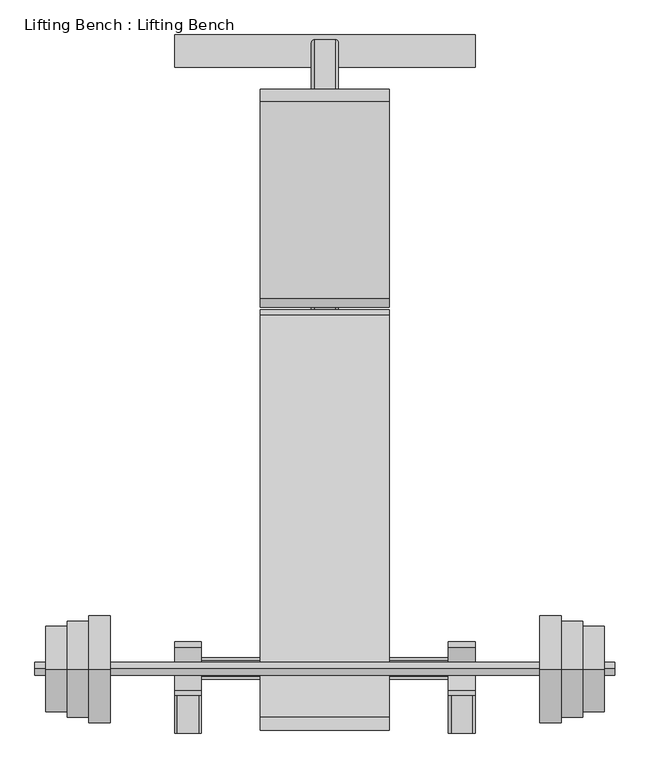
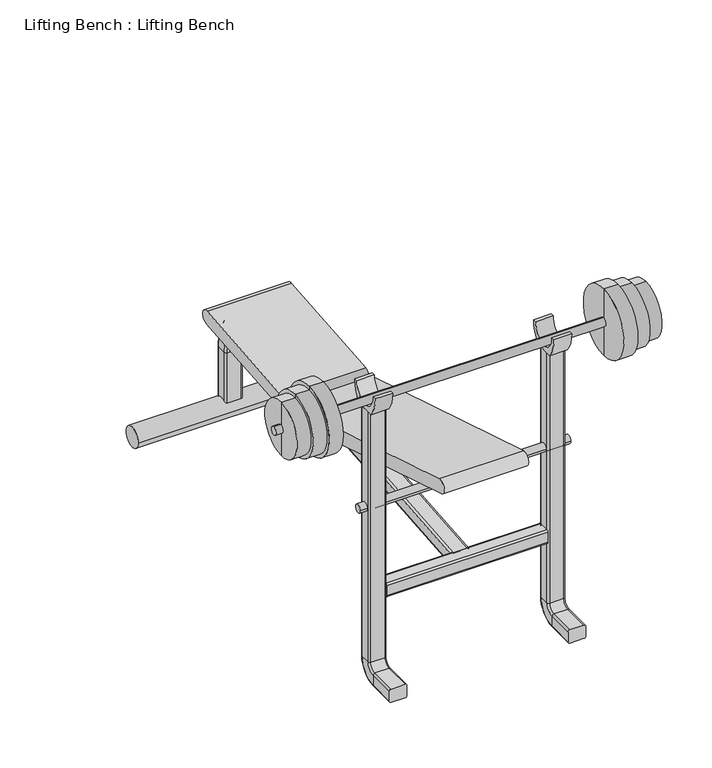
"""IFC4 building model written with IfcOpenShell, lengths in millimetres: proxy geometry, Lifting Bench : Lifting Bench."""

from ifc_helpers import new_model, si_unit, point, frame, frame_2d, origin, place, context, project, spatial, polyline, circle_curve, ellipse_curve, trimmed, segment, composite_curve, outline, extrude, source, transform, mapped, element, save
from ifc_brep_helpers import plane_surface, cylinder_surface, revolved_surface, advanced_brep


def lifting_bench_lifting_bench_aed266a5(model_context):
    return source(origin(), model_context, "Body", "SolidModel", [
        advanced_brep(
        [(863.6, -1499.8273383, 1064.6349274), (863.6, -1499.8273383, 1191.6349274), (863.6, -1499.8273383, 937.6349274), (1016.0, -1499.8273383, 1166.2349274), (1016.0, -1499.8273383, 1064.6349274), (1016.0, -1499.8273383, 963.0349274), (965.2, -1499.8273383, 1166.2349274), (965.2, -1499.8273383, 963.0349274), (965.2, -1499.8273383, 1178.9349274), (965.2, -1499.8273383, 950.3349274), (914.4, -1499.8273383, 1178.9349274), (914.4, -1499.8273383, 950.3349274), (914.4, -1499.8273383, 1191.6349274), (914.4, -1499.8273383, 937.6349274)],
        [
            (0, 1),
            (1, 2, circle_curve(frame((863.6, -1499.8273383, 1064.6349274), z_axis=(-1.0, 0.0, 0.0), x_axis=(0.0, 0.0, -1.0)), 127.0)),
            (2, 0),
            (2, 1, circle_curve(frame((863.6, -1499.8273383, 1064.6349274), z_axis=(-1.0, 0.0, 0.0), x_axis=(0.0, 0.0, -1.0)), 127.0)),
            (3, 4),
            (4, 5),
            (5, 3, circle_curve(frame((1016.0, -1499.8273383, 1064.6349274), z_axis=(1.0, 0.0, 0.0), x_axis=(0.0, 0.0, -1.0)), 101.6)),
            (3, 5, circle_curve(frame((1016.0, -1499.8273383, 1064.6349274), z_axis=(1.0, 0.0, 0.0), x_axis=(0.0, 0.0, -1.0)), 101.6)),
            (6, 3),
            (5, 7),
            (7, 6, circle_curve(frame((965.2, -1499.8273383, 1064.6349274), z_axis=(1.0, 0.0, 0.0), x_axis=(0.0, 0.0, -1.0)), 101.6)),
            (6, 7, circle_curve(frame((965.2, -1499.8273383, 1064.6349274), z_axis=(1.0, 0.0, 0.0), x_axis=(0.0, 0.0, -1.0)), 101.6)),
            (8, 6),
            (7, 9),
            (9, 8, circle_curve(frame((965.2, -1499.8273383, 1064.6349274), z_axis=(1.0, 0.0, 0.0), x_axis=(0.0, 0.0, -1.0)), 114.3)),
            (8, 9, circle_curve(frame((965.2, -1499.8273383, 1064.6349274), z_axis=(1.0, 0.0, 0.0), x_axis=(0.0, 0.0, -1.0)), 114.3)),
            (10, 8),
            (9, 11),
            (11, 10, circle_curve(frame((914.4, -1499.8273383, 1064.6349274), z_axis=(1.0, 0.0, 0.0), x_axis=(0.0, 0.0, -1.0)), 114.3)),
            (10, 11, circle_curve(frame((914.4, -1499.8273383, 1064.6349274), z_axis=(1.0, 0.0, 0.0), x_axis=(0.0, 0.0, -1.0)), 114.3)),
            (12, 10),
            (11, 13),
            (13, 12, circle_curve(frame((914.4, -1499.8273383, 1064.6349274), z_axis=(1.0, 0.0, 0.0), x_axis=(0.0, 0.0, -1.0)), 127.0)),
            (12, 13, circle_curve(frame((914.4, -1499.8273383, 1064.6349274), z_axis=(1.0, 0.0, 0.0), x_axis=(0.0, 0.0, -1.0)), 127.0)),
            (1, 12),
            (13, 2),
        ],
        [
            plane_surface(frame((863.6, -1499.8273383, 1064.6349274), z_axis=(-1.0, 0.0, 0.0), x_axis=(0.0, 0.0, -1.0))),
            plane_surface(frame((1016.0, -1499.8273383, 1064.6349274), z_axis=(1.0, 0.0, 0.0), x_axis=(0.0, 0.0, -1.0))),
            cylinder_surface(frame((1016.0, -1499.8273383, 1064.6349274), z_axis=(-1.0, 0.0, 0.0), x_axis=(0.0, 0.0, -1.0)), 101.6),
            plane_surface(frame((965.2, -1499.8273383, 1064.6349274), z_axis=(1.0, 0.0, 0.0), x_axis=(0.0, 0.0, -1.0))),
            cylinder_surface(frame((1016.0, -1499.8273383, 1064.6349274), z_axis=(-1.0, 0.0, 0.0), x_axis=(0.0, 0.0, -1.0)), 114.3),
            plane_surface(frame((914.4, -1499.8273383, 1064.6349274), z_axis=(1.0, 0.0, 0.0), x_axis=(0.0, 0.0, -1.0))),
            cylinder_surface(frame((1016.0, -1499.8273383, 1064.6349274), z_axis=(-1.0, 0.0, 0.0), x_axis=(0.0, 0.0, -1.0)), 127.0),
        ],
        [
            (0, [[1, 2, 3]]),
            (0, [[-3, 4, -1]]),
            (1, [[5, 6, 7]]),
            (1, [[-6, -5, 8]]),
            (2, [[9, -7, 10, 11]]),
            (2, [[-10, -8, -9, 12]]),
            (3, [[13, -11, 14, 15]]),
            (3, [[-14, -12, -13, 16]]),
            (4, [[17, -15, 18, 19]]),
            (4, [[-18, -16, -17, 20]]),
            (5, [[21, -19, 22, 23]]),
            (5, [[-22, -20, -21, 24]]),
            (6, [[25, -23, 26, -2]]),
            (6, [[-26, -24, -25, -4]]),
        ],
    ),
        advanced_brep(
        [(-203.2, -1499.8273383, 1191.6349274), (-152.4, -1499.8273383, 1191.6349274), (-152.4, -1499.8273383, 937.6349274), (-203.2, -1499.8273383, 937.6349274), (-203.2, -1499.8273383, 1178.9349274), (-203.2, -1499.8273383, 950.3349274), (-254.0, -1499.8273383, 1178.9349274), (-254.0, -1499.8273383, 950.3349274), (-254.0, -1499.8273383, 1166.2349274), (-254.0, -1499.8273383, 963.0349274), (-304.8, -1499.8273383, 1166.2349274), (-304.8, -1499.8273383, 963.0349274), (-304.8, -1499.8273383, 1064.6349274), (-152.4, -1499.8273383, 1064.6349274)],
        [
            (0, 1),
            (1, 2, circle_curve(frame((-152.4, -1499.8273383, 1064.6349274), z_axis=(-1.0, 0.0, 0.0), x_axis=(0.0, 0.0, -1.0)), 127.0)),
            (2, 3),
            (3, 0, circle_curve(frame((-203.2, -1499.8273383, 1064.6349274), z_axis=(1.0, 0.0, 0.0), x_axis=(0.0, 0.0, -1.0)), 127.0)),
            (2, 1, circle_curve(frame((-152.4, -1499.8273383, 1064.6349274), z_axis=(-1.0, 0.0, 0.0), x_axis=(0.0, 0.0, -1.0)), 127.0)),
            (0, 3, circle_curve(frame((-203.2, -1499.8273383, 1064.6349274), z_axis=(1.0, 0.0, 0.0), x_axis=(0.0, 0.0, -1.0)), 127.0)),
            (4, 0),
            (3, 5),
            (5, 4, circle_curve(frame((-203.2, -1499.8273383, 1064.6349274), z_axis=(1.0, 0.0, 0.0), x_axis=(0.0, 0.0, -1.0)), 114.3)),
            (4, 5, circle_curve(frame((-203.2, -1499.8273383, 1064.6349274), z_axis=(1.0, 0.0, 0.0), x_axis=(0.0, 0.0, -1.0)), 114.3)),
            (6, 4),
            (5, 7),
            (7, 6, circle_curve(frame((-254.0, -1499.8273383, 1064.6349274), z_axis=(1.0, 0.0, 0.0), x_axis=(0.0, 0.0, -1.0)), 114.3)),
            (6, 7, circle_curve(frame((-254.0, -1499.8273383, 1064.6349274), z_axis=(1.0, 0.0, 0.0), x_axis=(0.0, 0.0, -1.0)), 114.3)),
            (8, 6),
            (7, 9),
            (9, 8, circle_curve(frame((-254.0, -1499.8273383, 1064.6349274), z_axis=(1.0, 0.0, 0.0), x_axis=(0.0, 0.0, -1.0)), 101.6)),
            (8, 9, circle_curve(frame((-254.0, -1499.8273383, 1064.6349274), z_axis=(1.0, 0.0, 0.0), x_axis=(0.0, 0.0, -1.0)), 101.6)),
            (10, 8),
            (9, 11),
            (11, 10, circle_curve(frame((-304.8, -1499.8273383, 1064.6349274), z_axis=(1.0, 0.0, 0.0), x_axis=(0.0, 0.0, -1.0)), 101.6)),
            (10, 11, circle_curve(frame((-304.8, -1499.8273383, 1064.6349274), z_axis=(1.0, 0.0, 0.0), x_axis=(0.0, 0.0, -1.0)), 101.6)),
            (12, 10),
            (11, 12),
            (1, 13),
            (13, 2),
        ],
        [
            cylinder_surface(frame((-304.8, -1499.8273383, 1064.6349274), z_axis=(-1.0, 0.0, 0.0), x_axis=(0.0, 0.0, -1.0)), 127.0),
            plane_surface(frame((-203.2, -1499.8273383, 1064.6349274), z_axis=(-1.0, 0.0, 0.0), x_axis=(0.0, 0.0, -1.0))),
            cylinder_surface(frame((-304.8, -1499.8273383, 1064.6349274), z_axis=(-1.0, 0.0, 0.0), x_axis=(0.0, 0.0, -1.0)), 114.3),
            plane_surface(frame((-254.0, -1499.8273383, 1064.6349274), z_axis=(-1.0, 0.0, 0.0), x_axis=(0.0, 0.0, -1.0))),
            cylinder_surface(frame((-304.8, -1499.8273383, 1064.6349274), z_axis=(-1.0, 0.0, 0.0), x_axis=(0.0, 0.0, -1.0)), 101.6),
            plane_surface(frame((-304.8, -1499.8273383, 1064.6349274), z_axis=(-1.0, 0.0, 0.0), x_axis=(0.0, 0.0, -1.0))),
            plane_surface(frame((-152.4, -1499.8273383, 1064.6349274), z_axis=(1.0, 0.0, 0.0), x_axis=(0.0, 0.0, -1.0))),
        ],
        [
            (0, [[1, 2, 3, 4]]),
            (0, [[-3, 5, -1, 6]]),
            (1, [[7, -4, 8, 9]]),
            (1, [[-8, -6, -7, 10]]),
            (2, [[11, -9, 12, 13]]),
            (2, [[-12, -10, -11, 14]]),
            (3, [[15, -13, 16, 17]]),
            (3, [[-16, -14, -15, 18]]),
            (4, [[19, -17, 20, 21]]),
            (4, [[-20, -18, -19, 22]]),
            (5, [[23, -21, 24]]),
            (5, [[-24, -22, -23]]),
            (6, [[25, 26, -2]]),
            (6, [[-26, -25, -5]]),
        ],
    ),
        extrude(outline(composite_curve([segment(trimmed(circle_curve(frame_2d((-1498.8784415, 1064.876483)), 15.24), [point((-1498.8784415, 1080.116483))], [point((-1498.8784415, 1049.636483))], False, "CARTESIAN"), True, "CONTINUOUS"), segment(trimmed(circle_curve(frame_2d((-1498.8784415, 1064.876483)), 15.24), [point((-1498.8784415, 1049.636483))], [point((-1498.8784415, 1080.116483))], False, "CARTESIAN"), True, "CONTINUOUS")], self_intersect=False)), frame((-330.2, 0.0, 0.0), z_axis=(1.0, 0.0, 0.0), x_axis=(0.0, 1.0, 0.0)), (0.0, 0.0, 1.0), 1371.6),
        extrude(outline(composite_curve([segment(polyline([(-151.4105759, 471.8777547), (-617.7247139, 430.7066962)]), True, "CONTINUOUS"), segment(trimmed(circle_curve(frame_2d((-619.1300453, 456.0760732)), 25.4082713), [point((-617.7247139, 430.7066962))], [point((-622.2896707, 481.2871227))], False, "CARTESIAN"), True, "CONTINUOUS"), segment(trimmed(circle_curve(frame_2d((-127.106652, -2469.9529834)), 2992.4946759), [point((-622.2896707, 481.2871227))], [point((-156.6854072, 522.3955061))], False, "CARTESIAN"), True, "CONTINUOUS"), segment(trimmed(circle_curve(frame_2d((-154.0479916, 497.1366304)), 25.3961958), [point((-156.6854072, 522.3955061))], [point((-151.4105759, 471.8777547))], False, "CARTESIAN"), True, "CONTINUOUS")], self_intersect=False)), frame((203.2, 0.0, 0.0), z_axis=(1.0, 0.0, 0.0), x_axis=(0.0, 1.0, 0.0)), (0.0, 0.0, 1.0), 304.8),
        extrude(outline(composite_curve([segment(trimmed(circle_curve(frame_2d((-1618.7256251, 738.9507081)), 25.4318859), [point((-1627.9721299, 715.2592968))], [point((-1613.1200164, 763.7571179))], False, "CARTESIAN"), True, "CONTINUOUS"), segment(trimmed(circle_curve(frame_2d((-3730.0900833, -7845.2781253)), 8865.4977347), [point((-1613.1200164, 763.7571179))], [point((-663.2331153, 472.8609948))], False, "CARTESIAN"), True, "CONTINUOUS"), segment(trimmed(circle_curve(frame_2d((-675.6790919, 450.377142)), 25.6987542), [point((-663.2331153, 472.8609948))], [point((-680.7923935, 425.1922236))], False, "CARTESIAN"), True, "CONTINUOUS"), segment(polyline([(-680.7923935, 425.1922236), (-1627.9721299, 715.2592968)]), True, "CONTINUOUS")], self_intersect=False)), frame((203.2, 0.0, 0.0), z_axis=(1.0, 0.0, 0.0), x_axis=(0.0, 1.0, 0.0)), (0.0, 0.0, 1.0), 304.8),
        extrude(outline(composite_curve([segment(polyline([(-1460.5, 1033.9133719), (-1536.7, 1033.9133719)]), True, "CONTINUOUS"), segment(trimmed(circle_curve(frame_2d((-1439.0715291, 1108.7895289)), 123.0355933), [point((-1536.7, 1033.9133719))], [point((-1562.1, 1110.1133719))], False, "CARTESIAN"), True, "CONTINUOUS"), segment(polyline([(-1562.1, 1110.1133719), (-1549.4, 1110.1133719)]), True, "CONTINUOUS"), segment(trimmed(circle_curve(frame_2d((-1492.6027609, 1106.1882424)), 56.932706), [point((-1549.4, 1110.1133719))], [point((-1498.6, 1049.5722894))], True, "CARTESIAN"), True, "CONTINUOUS"), segment(trimmed(circle_curve(frame_2d((-1504.5972391, 1106.1882424)), 56.932706), [point((-1498.6, 1049.5722894))], [point((-1447.8, 1110.1133719))], True, "CARTESIAN"), True, "CONTINUOUS"), segment(polyline([(-1447.8, 1110.1133719), (-1435.1, 1110.1133719)]), True, "CONTINUOUS"), segment(trimmed(circle_curve(frame_2d((-1558.1284709, 1108.7895289)), 123.0355933), [point((-1435.1, 1110.1133719))], [point((-1460.5, 1033.9133719))], False, "CARTESIAN"), True, "CONTINUOUS")], self_intersect=False)), frame((647.7, 0.0, 0.0), z_axis=(1.0, 0.0, 0.0), x_axis=(0.0, 1.0, 0.0)), (0.0, 0.0, 1.0), 63.5),
        extrude(outline(composite_curve([segment(polyline([(-1460.5, 1033.9133719), (-1536.7, 1033.9133719)]), True, "CONTINUOUS"), segment(trimmed(circle_curve(frame_2d((-1439.0715291, 1108.7895289)), 123.0355933), [point((-1536.7, 1033.9133719))], [point((-1562.1, 1110.1133719))], False, "CARTESIAN"), True, "CONTINUOUS"), segment(polyline([(-1562.1, 1110.1133719), (-1549.4, 1110.1133719)]), True, "CONTINUOUS"), segment(trimmed(circle_curve(frame_2d((-1492.6027609, 1106.1882424)), 56.932706), [point((-1549.4, 1110.1133719))], [point((-1498.6, 1049.5722894))], True, "CARTESIAN"), True, "CONTINUOUS"), segment(trimmed(circle_curve(frame_2d((-1504.5972391, 1106.1882424)), 56.932706), [point((-1498.6, 1049.5722894))], [point((-1447.8, 1110.1133719))], True, "CARTESIAN"), True, "CONTINUOUS"), segment(polyline([(-1447.8, 1110.1133719), (-1435.1, 1110.1133719)]), True, "CONTINUOUS"), segment(trimmed(circle_curve(frame_2d((-1558.1284709, 1108.7895289)), 123.0355933), [point((-1435.1, 1110.1133719))], [point((-1460.5, 1033.9133719))], False, "CARTESIAN"), True, "CONTINUOUS")], self_intersect=False)), frame((0.0, 0.0, 0.0), z_axis=(1.0, 0.0, 0.0), x_axis=(0.0, 1.0, 0.0)), (0.0, 0.0, 1.0), 63.5),
        extrude(outline(composite_curve([segment(trimmed(circle_curve(frame_2d((-1498.6, 660.4)), 15.24), [point((-1483.36, 660.4))], [point((-1513.84, 660.4))], False, "CARTESIAN"), True, "CONTINUOUS"), segment(trimmed(circle_curve(frame_2d((-1498.6, 660.4)), 15.24), [point((-1513.84, 660.4))], [point((-1483.36, 660.4))], False, "CARTESIAN"), True, "CONTINUOUS")], self_intersect=False)), frame((-25.4, 0.0, 0.0), z_axis=(1.0, 0.0, 0.0), x_axis=(0.0, 1.0, 0.0)), (0.0, 0.0, 1.0), 762.0),
        advanced_brep(
        [(381.0, -1482.8987076, 355.0170142), (330.2, -1482.8987076, 355.0170142), (323.85, -1482.3452686, 348.6911779), (323.85, -1479.0246348, 310.7361599), (330.2, -1478.4711959, 304.4103235), (381.0, -1478.4711959, 304.4103235), (387.35, -1479.0246348, 310.7361599), (387.35, -1482.3452686, 348.6911779), (387.35, -231.4342216, 458.1317136), (381.0, -231.9876606, 464.4575499), (387.35, -228.1135878, 420.1766956), (381.0, -227.5601489, 413.8508592), (330.2, -227.5601489, 413.8508592), (323.85, -228.1135878, 420.1766956), (323.85, -231.4342216, 458.1317136), (330.2, -231.9876606, 464.4575499), (387.35, -17.958351, 262.5171184), (381.0, -11.608351, 262.5171184), (387.35, -56.058351, 262.5171184), (381.0, -62.408351, 262.5171184), (330.2, -62.408351, 262.5171184), (323.85, -56.058351, 262.5171184), (323.85, -17.958351, 262.5171184), (330.2, -11.608351, 262.5171184), (381.0, -11.608351, 40.4636494), (387.35, -17.958351, 40.4636494), (387.35, -56.058351, 40.4636494), (381.0, -62.408351, 40.4636494), (330.2, -62.408351, 40.4636494), (323.85, -56.058351, 40.4636494), (323.85, -17.958351, 40.4636494), (330.2, -11.608351, 40.4636494)],
        [
            (0, 1),
            (1, 2, circle_curve(frame((330.2, -1482.3452686, 348.6911779), z_axis=(0.0, -0.9961946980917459, -0.08715574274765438), x_axis=(0.0, -0.08715574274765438, 0.9961946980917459)), 6.35)),
            (2, 3),
            (3, 4, circle_curve(frame((330.2, -1479.0246348, 310.7361599), z_axis=(0.0, -0.9961946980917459, -0.08715574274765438), x_axis=(0.0, -0.08715574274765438, 0.9961946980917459)), 6.35)),
            (4, 5),
            (5, 6, circle_curve(frame((381.0, -1479.0246348, 310.7361599), z_axis=(0.0, -0.9961946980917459, -0.08715574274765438), x_axis=(0.0, -0.08715574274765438, 0.9961946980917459)), 6.35)),
            (6, 7),
            (7, 0, circle_curve(frame((381.0, -1482.3452686, 348.6911779), z_axis=(0.0, -0.9961946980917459, -0.08715574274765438), x_axis=(0.0, -0.08715574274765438, 0.9961946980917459)), 6.35)),
            (7, 8),
            (8, 9, circle_curve(frame((381.0, -231.4342216, 458.1317136), z_axis=(0.0, -0.9961946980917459, -0.08715574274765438), x_axis=(0.0, -0.08715574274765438, 0.9961946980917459)), 6.35)),
            (9, 0),
            (6, 10),
            (10, 8),
            (5, 11),
            (11, 10, circle_curve(frame((381.0, -228.1135878, 420.1766956), z_axis=(0.0, -0.9961946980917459, -0.08715574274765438), x_axis=(0.0, -0.08715574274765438, 0.9961946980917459)), 6.35)),
            (4, 12),
            (12, 11),
            (3, 13),
            (13, 12, circle_curve(frame((330.2, -228.1135878, 420.1766956), z_axis=(0.0, -0.9961946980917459, -0.08715574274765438), x_axis=(0.0, -0.08715574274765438, 0.9961946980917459)), 6.35)),
            (2, 14),
            (14, 13),
            (1, 15),
            (15, 14, circle_curve(frame((330.2, -231.4342216, 458.1317136), z_axis=(0.0, -0.9961946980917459, -0.08715574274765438), x_axis=(0.0, -0.08715574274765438, 0.9961946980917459)), 6.35)),
            (9, 15),
            (16, 17, circle_curve(frame((381.0, -17.958351, 262.5171184), z_axis=(0.0, 0.0, 0.9999999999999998), x_axis=(0.0, 0.9999999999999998, 0.0)), 6.35)),
            (17, 9, circle_curve(frame((381.0, -214.3201621, 262.5171184), z_axis=(1.0, 0.0, 0.0), x_axis=(0.0, -0.0871557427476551, 0.9961946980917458)), 202.7118112)),
            (8, 16, circle_curve(frame((387.35, -214.3201621, 262.5171184), z_axis=(-1.0, 0.0, 0.0), x_axis=(0.0, -0.0871557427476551, 0.9961946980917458)), 196.3618112)),
            (18, 16),
            (10, 18, circle_curve(frame((387.35, -214.3201621, 262.5171184), z_axis=(-1.0, 0.0, 0.0), x_axis=(0.0, -0.0871557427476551, 0.9961946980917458)), 158.2618112)),
            (19, 18, circle_curve(frame((381.0, -56.058351, 262.5171184), z_axis=(0.0, 0.0, 0.9999999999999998), x_axis=(0.0, 0.9999999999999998, 0.0)), 6.35)),
            (11, 19, circle_curve(frame((381.0, -214.3201621, 262.5171184), z_axis=(-1.0, 0.0, 0.0), x_axis=(0.0, -0.0871557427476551, 0.9961946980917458)), 151.9118112)),
            (20, 19),
            (12, 20, circle_curve(frame((330.2, -214.3201621, 262.5171184), z_axis=(-1.0, 0.0, 0.0), x_axis=(0.0, -0.0871557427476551, 0.9961946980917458)), 151.9118112)),
            (21, 20, circle_curve(frame((330.2, -56.058351, 262.5171184), z_axis=(0.0, 0.0, 0.9999999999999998), x_axis=(0.0, 0.9999999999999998, 0.0)), 6.35)),
            (13, 21, circle_curve(frame((323.85, -214.3201621, 262.5171184), z_axis=(-1.0, 0.0, 0.0), x_axis=(0.0, -0.0871557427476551, 0.9961946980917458)), 158.2618112)),
            (22, 21),
            (14, 22, circle_curve(frame((323.85, -214.3201621, 262.5171184), z_axis=(-1.0, 0.0, 0.0), x_axis=(0.0, -0.0871557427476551, 0.9961946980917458)), 196.3618112)),
            (23, 22, circle_curve(frame((330.2, -17.958351, 262.5171184), z_axis=(0.0, 0.0, 0.9999999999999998), x_axis=(0.0, 0.9999999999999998, 0.0)), 6.35)),
            (15, 23, circle_curve(frame((330.2, -214.3201621, 262.5171184), z_axis=(-1.0, 0.0, 0.0), x_axis=(0.0, -0.0871557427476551, 0.9961946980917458)), 202.7118112)),
            (17, 23),
            (24, 25, circle_curve(frame((381.0, -17.958351, 40.4636494), z_axis=(0.0, 0.0, -1.0), x_axis=(0.0, 1.0, 0.0)), 6.35)),
            (25, 26),
            (26, 27, circle_curve(frame((381.0, -56.058351, 40.4636494), z_axis=(0.0, 0.0, -1.0), x_axis=(0.0, 1.0, 0.0)), 6.35)),
            (27, 28),
            (28, 29, circle_curve(frame((330.2, -56.058351, 40.4636494), z_axis=(0.0, 0.0, -1.0), x_axis=(0.0, 1.0, 0.0)), 6.35)),
            (29, 30),
            (30, 31, circle_curve(frame((330.2, -17.958351, 40.4636494), z_axis=(0.0, 0.0, -1.0), x_axis=(0.0, 1.0, 0.0)), 6.35)),
            (31, 24),
            (16, 25),
            (24, 17),
            (18, 26),
            (19, 27),
            (20, 28),
            (21, 29),
            (22, 30),
            (23, 31),
        ],
        [
            plane_surface(frame((323.85, -1474.9370581, 264.0149443), z_axis=(0.0, -0.9961946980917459, -0.08715574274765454), x_axis=(1.0, 0.0, 0.0))),
            cylinder_surface(frame((381.0, -1482.3452686, 348.6911779), z_axis=(0.0, -0.9961946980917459, -0.08715574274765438), x_axis=(0.0, -0.08715574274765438, 0.9961946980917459)), 6.35),
            plane_surface(frame((387.35, -1482.3452686, 348.6911779), z_axis=(1.0000000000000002, 0.0, 0.0), x_axis=(0.0, 0.9961946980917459, 0.08715574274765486))),
            cylinder_surface(frame((381.0, -1479.0246348, 310.7361599), z_axis=(0.0, -0.9961946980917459, -0.08715574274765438), x_axis=(0.0, -0.08715574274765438, 0.9961946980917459)), 6.35),
            plane_surface(frame((381.0, -1478.4711959, 304.4103235), z_axis=(0.0, 0.08715574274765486, -0.996194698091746), x_axis=(0.0, 0.996194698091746, 0.08715574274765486))),
            cylinder_surface(frame((330.2, -1479.0246348, 310.7361599), z_axis=(0.0, -0.9961946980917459, -0.08715574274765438), x_axis=(0.0, -0.08715574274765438, 0.9961946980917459)), 6.35),
            plane_surface(frame((323.85, -1479.0246348, 310.7361599), z_axis=(-1.0000000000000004, 0.0, 0.0), x_axis=(0.0, 0.996194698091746, 0.08715574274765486))),
            cylinder_surface(frame((330.2, -1482.3452686, 348.6911779), z_axis=(0.0, -0.9961946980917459, -0.08715574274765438), x_axis=(0.0, -0.08715574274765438, 0.9961946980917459)), 6.35),
            plane_surface(frame((330.2, -1482.8987076, 355.0170142), z_axis=(0.0, -0.08715574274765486, 0.996194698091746), x_axis=(0.0, 0.996194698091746, 0.08715574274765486))),
            revolved_surface(trimmed(ellipse_curve(frame((381.0, -231.4342216, 458.1317136), z_axis=(0.0, 0.9961946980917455, 0.08715574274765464), x_axis=(0.0, -0.08715574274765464, 0.9961946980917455)), 6.35, 6.35), [point((381.0, -231.9876606, 464.4575499))], [point((387.35, -231.4342216, 458.1317136))], True, "CARTESIAN"), (323.85, -214.3201621, 262.5171184), (1.0, 0.0, 0.0)),
            plane_surface(frame((387.35, -214.3201621, 262.5171184), z_axis=(1.0, 0.0, 0.0), x_axis=(0.0, -0.0871557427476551, 0.9961946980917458))),
            revolved_surface(trimmed(ellipse_curve(frame((381.0, -228.1135878, 420.1766956), z_axis=(0.0, 0.9961946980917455, 0.08715574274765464), x_axis=(0.0, -0.08715574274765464, 0.9961946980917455)), 6.35, 6.35), [point((387.35, -228.1135878, 420.1766956))], [point((381.0, -227.5601489, 413.8508592))], True, "CARTESIAN"), (323.85, -214.3201621, 262.5171184), (1.0, 0.0, 0.0)),
            revolved_surface(polyline([(381.0, -227.56014883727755, 413.85085929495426), (330.2, -227.56014883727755, 413.85085929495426)]), (323.85, -214.3201621, 262.5171184), (1.0, 0.0, 0.0)),
            revolved_surface(trimmed(ellipse_curve(frame((330.2, -228.1135878, 420.1766956), z_axis=(0.0, 0.9961946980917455, 0.08715574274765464), x_axis=(0.0, -0.08715574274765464, 0.9961946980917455)), 6.35, 6.35), [point((330.2, -227.5601489, 413.8508592))], [point((323.85, -228.1135878, 420.1766956))], True, "CARTESIAN"), (323.85, -214.3201621, 262.5171184), (1.0, 0.0, 0.0)),
            plane_surface(frame((323.85, -214.3201621, 262.5171184), z_axis=(-1.0, 0.0, 0.0), x_axis=(0.0, -0.0871557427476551, 0.9961946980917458))),
            revolved_surface(trimmed(ellipse_curve(frame((330.2, -231.4342216, 458.1317136), z_axis=(0.0, 0.9961946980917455, 0.08715574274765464), x_axis=(0.0, -0.08715574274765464, 0.9961946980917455)), 6.35, 6.35), [point((323.85, -231.4342216, 458.1317136))], [point((330.2, -231.9876606, 464.4575499))], True, "CARTESIAN"), (323.85, -214.3201621, 262.5171184), (1.0, 0.0, 0.0)),
            cylinder_surface(frame((323.85, -214.3201621, 262.5171184), z_axis=(1.0, 0.0, 0.0), x_axis=(0.0, -0.0871557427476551, 0.9961946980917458)), 202.7118112),
            plane_surface(frame((323.85, 29.9177098, 40.4636494), z_axis=(0.0, 0.0, -1.0), x_axis=(-1.0, 0.0, 0.0))),
            cylinder_surface(frame((381.0, -17.958351, 262.5171184), z_axis=(0.0, 0.0, 1.0), x_axis=(0.0, 1.0, 0.0)), 6.35),
            plane_surface(frame((387.35, -17.958351, 262.5171184), z_axis=(1.0, 0.0, 0.0), x_axis=(0.0, 0.0, -1.0))),
            cylinder_surface(frame((381.0, -56.058351, 262.5171184), z_axis=(0.0, 0.0, 1.0), x_axis=(0.0, 1.0, 0.0)), 6.35),
            plane_surface(frame((381.0, -62.408351, 262.5171184), z_axis=(0.0, -1.0, 0.0), x_axis=(0.0, 0.0, -1.0))),
            cylinder_surface(frame((330.2, -56.058351, 262.5171184), z_axis=(0.0, 0.0, 1.0), x_axis=(0.0, 1.0, 0.0)), 6.35),
            plane_surface(frame((323.85, -56.058351, 262.5171184), z_axis=(-1.0, 0.0, 0.0), x_axis=(0.0, 0.0, -1.0))),
            cylinder_surface(frame((330.2, -17.958351, 262.5171184), z_axis=(0.0, 0.0, 1.0), x_axis=(0.0, 1.0, 0.0)), 6.35),
            plane_surface(frame((330.2, -11.608351, 262.5171184), z_axis=(0.0, 1.0, 0.0), x_axis=(0.0, 0.0, -1.0))),
        ],
        [
            (0, [[1, 2, 3, 4, 5, 6, 7, 8]]),
            (1, [[9, 10, 11, -8]]),
            (2, [[12, 13, -9, -7]]),
            (3, [[14, 15, -12, -6]]),
            (4, [[16, 17, -14, -5]]),
            (5, [[18, 19, -16, -4]]),
            (6, [[20, 21, -18, -3]]),
            (7, [[22, 23, -20, -2]]),
            (8, [[-11, 24, -22, -1]]),
            (9, [[25, 26, -10, 27]]),
            (10, [[28, -27, -13, 29]]),
            (11, [[30, -29, -15, 31]]),
            (12, [[32, -31, -17, 33]]),
            (13, [[34, -33, -19, 35]]),
            (14, [[36, -35, -21, 37]]),
            (15, [[38, -37, -23, 39]]),
            (16, [[40, -39, -24, -26]]),
            (17, [[41, 42, 43, 44, 45, 46, 47, 48]]),
            (18, [[49, -41, 50, -25]]),
            (19, [[51, -42, -49, -28]]),
            (20, [[52, -43, -51, -30]]),
            (21, [[53, -44, -52, -32]]),
            (22, [[54, -45, -53, -34]]),
            (23, [[55, -46, -54, -36]]),
            (24, [[56, -47, -55, -38]]),
            (25, [[-50, -48, -56, -40]]),
        ],
    ),
        extrude(outline(composite_curve([segment(polyline([(-1479.55, 304.8), (-1517.65, 304.8)]), True, "CONTINUOUS"), segment(trimmed(circle_curve(frame_2d((-1517.65, 311.15)), 6.35), [point((-1517.65, 304.8))], [point((-1524.0, 311.15))], False, "CARTESIAN"), True, "CONTINUOUS"), segment(polyline([(-1524.0, 311.15), (-1524.0, 349.25)]), True, "CONTINUOUS"), segment(trimmed(circle_curve(frame_2d((-1517.65, 349.25)), 6.35), [point((-1524.0, 349.25))], [point((-1517.65, 355.6))], False, "CARTESIAN"), True, "CONTINUOUS"), segment(polyline([(-1517.65, 355.6), (-1479.55, 355.6)]), True, "CONTINUOUS"), segment(trimmed(circle_curve(frame_2d((-1479.55, 349.25)), 6.35), [point((-1479.55, 355.6))], [point((-1473.2, 349.25))], False, "CARTESIAN"), True, "CONTINUOUS"), segment(polyline([(-1473.2, 349.25), (-1473.2, 311.15)]), True, "CONTINUOUS"), segment(trimmed(circle_curve(frame_2d((-1479.55, 311.15)), 6.35), [point((-1473.2, 311.15))], [point((-1479.55, 304.8))], False, "CARTESIAN"), True, "CONTINUOUS")], self_intersect=False)), frame((63.5, 0.0, 0.0), z_axis=(1.0, 0.0, 0.0), x_axis=(0.0, 1.0, 0.0)), (0.0, 0.0, 1.0), 584.2),
        advanced_brep(
        [(654.05, -1524.0, 1033.9133719), (704.85, -1524.0, 1033.9133719), (711.2, -1517.65, 1033.9133719), (711.2, -1479.55, 1033.9133719), (704.85, -1473.2, 1033.9133719), (654.05, -1473.2, 1033.9133719), (647.7, -1479.55, 1033.9133719), (647.7, -1517.65, 1033.9133719), (647.7, -1517.65, 76.2), (654.05, -1524.0, 76.2), (647.7, -1479.55, 76.2), (654.05, -1473.2, 76.2), (704.85, -1473.2, 76.2), (711.2, -1479.55, 76.2), (711.2, -1517.65, 76.2), (704.85, -1524.0, 76.2), (647.7, -1549.4, 44.45), (654.05, -1549.4, 50.8), (647.7, -1549.4, 6.35), (654.05, -1549.4, 0.0), (704.85, -1549.4, 0.0), (711.2, -1549.4, 6.35), (711.2, -1549.4, 44.45), (704.85, -1549.4, 50.8), (654.05, -1651.0, 50.8), (647.7, -1651.0, 44.45), (647.7, -1651.0, 6.35), (654.05, -1651.0, 0.0), (704.85, -1651.0, 0.0), (711.2, -1651.0, 6.35), (711.2, -1651.0, 44.45), (704.85, -1651.0, 50.8)],
        [
            (0, 1),
            (1, 2, circle_curve(frame((704.85, -1517.65, 1033.9133719), z_axis=(0.0, 0.0, 1.0), x_axis=(-1.0, 0.0, 0.0)), 6.35)),
            (2, 3),
            (3, 4, circle_curve(frame((704.85, -1479.55, 1033.9133719), z_axis=(0.0, 0.0, 1.0), x_axis=(-1.0, 0.0, 0.0)), 6.35)),
            (4, 5),
            (5, 6, circle_curve(frame((654.05, -1479.55, 1033.9133719), z_axis=(0.0, 0.0, 1.0), x_axis=(-1.0, 0.0, 0.0)), 6.35)),
            (6, 7),
            (7, 0, circle_curve(frame((654.05, -1517.65, 1033.9133719), z_axis=(0.0, 0.0, 1.0), x_axis=(-1.0, 0.0, 0.0)), 6.35)),
            (7, 8),
            (8, 9, circle_curve(frame((654.05, -1517.65, 76.2), z_axis=(0.0, 0.0, 1.0), x_axis=(-1.0, 0.0, 0.0)), 6.35)),
            (9, 0),
            (6, 10),
            (10, 8),
            (5, 11),
            (11, 10, circle_curve(frame((654.05, -1479.55, 76.2), z_axis=(0.0, 0.0, 1.0), x_axis=(-1.0, 0.0, 0.0)), 6.35)),
            (4, 12),
            (12, 11),
            (3, 13),
            (13, 12, circle_curve(frame((704.85, -1479.55, 76.2), z_axis=(0.0, 0.0, 1.0), x_axis=(-1.0, 0.0, 0.0)), 6.35)),
            (2, 14),
            (14, 13),
            (1, 15),
            (15, 14, circle_curve(frame((704.85, -1517.65, 76.2), z_axis=(0.0, 0.0, 1.0), x_axis=(-1.0, 0.0, 0.0)), 6.35)),
            (9, 15),
            (16, 17, circle_curve(frame((654.05, -1549.4, 44.45), z_axis=(0.0, 1.0, 0.0), x_axis=(-1.0, 0.0, 0.0)), 6.35)),
            (17, 9, circle_curve(frame((654.05, -1549.4, 76.2), z_axis=(1.0, 0.0, 0.0), x_axis=(0.0, 1.0, 0.0)), 25.4)),
            (8, 16, circle_curve(frame((647.7, -1549.4, 76.2), z_axis=(-1.0, 0.0, 0.0), x_axis=(0.0, 1.0, 0.0)), 31.75)),
            (18, 16),
            (10, 18, circle_curve(frame((647.7, -1549.4, 76.2), z_axis=(-1.0, 0.0, 0.0), x_axis=(0.0, 1.0, 0.0)), 69.85)),
            (19, 18, circle_curve(frame((654.05, -1549.4, 6.35), z_axis=(0.0, 1.0, 0.0), x_axis=(-1.0, 0.0, 0.0)), 6.35)),
            (11, 19, circle_curve(frame((654.05, -1549.4, 76.2), z_axis=(-1.0, 0.0, 0.0), x_axis=(0.0, 1.0, 0.0)), 76.2)),
            (20, 19),
            (12, 20, circle_curve(frame((704.85, -1549.4, 76.2), z_axis=(-1.0, 0.0, 0.0), x_axis=(0.0, 1.0, 0.0)), 76.2)),
            (21, 20, circle_curve(frame((704.85, -1549.4, 6.35), z_axis=(0.0, 1.0, 0.0), x_axis=(-1.0, 0.0, 0.0)), 6.35)),
            (13, 21, circle_curve(frame((711.2, -1549.4, 76.2), z_axis=(-1.0, 0.0, 0.0), x_axis=(0.0, 1.0, 0.0)), 69.85)),
            (22, 21),
            (14, 22, circle_curve(frame((711.2, -1549.4, 76.2), z_axis=(-1.0, 0.0, 0.0), x_axis=(0.0, 1.0, 0.0)), 31.75)),
            (23, 22, circle_curve(frame((704.85, -1549.4, 44.45), z_axis=(0.0, 1.0, 0.0), x_axis=(-1.0, 0.0, 0.0)), 6.35)),
            (15, 23, circle_curve(frame((704.85, -1549.4, 76.2), z_axis=(-1.0, 0.0, 0.0), x_axis=(0.0, 1.0, 0.0)), 25.4)),
            (17, 23),
            (24, 25, circle_curve(frame((654.05, -1651.0, 44.45), z_axis=(0.0, -1.0, 0.0), x_axis=(-1.0, 0.0, 0.0)), 6.35)),
            (25, 26),
            (26, 27, circle_curve(frame((654.05, -1651.0, 6.35), z_axis=(0.0, -1.0, 0.0), x_axis=(-1.0, 0.0, 0.0)), 6.35)),
            (27, 28),
            (28, 29, circle_curve(frame((704.85, -1651.0, 6.35), z_axis=(0.0, -1.0, 0.0), x_axis=(-1.0, 0.0, 0.0)), 6.35)),
            (29, 30),
            (30, 31, circle_curve(frame((704.85, -1651.0, 44.45), z_axis=(0.0, -1.0, 0.0), x_axis=(-1.0, 0.0, 0.0)), 6.35)),
            (31, 24),
            (16, 25),
            (24, 17),
            (18, 26),
            (19, 27),
            (20, 28),
            (21, 29),
            (22, 30),
            (23, 31),
        ],
        [
            plane_surface(frame((711.2, -1445.293955, 1033.9133719), z_axis=(0.0, 0.0, 1.0), x_axis=(-1.0, 0.0, 0.0))),
            cylinder_surface(frame((654.05, -1517.65, 1033.9133719), z_axis=(0.0, 0.0, 1.0), x_axis=(-1.0, 0.0, 0.0)), 6.35),
            plane_surface(frame((647.7, -1517.65, 1033.9133719), z_axis=(-1.0, 0.0, 0.0), x_axis=(0.0, 0.0, -1.0))),
            cylinder_surface(frame((654.05, -1479.55, 1033.9133719), z_axis=(0.0, 0.0, 1.0), x_axis=(-1.0, 0.0, 0.0)), 6.35),
            plane_surface(frame((654.05, -1473.2, 1033.9133719), z_axis=(0.0, 1.0, 0.0), x_axis=(0.0, 0.0, -1.0))),
            cylinder_surface(frame((704.85, -1479.55, 1033.9133719), z_axis=(0.0, 0.0, 1.0), x_axis=(-1.0, 0.0, 0.0)), 6.35),
            plane_surface(frame((711.2, -1479.55, 1033.9133719), z_axis=(1.0, 0.0, 0.0), x_axis=(0.0, 0.0, -1.0))),
            cylinder_surface(frame((704.85, -1517.65, 1033.9133719), z_axis=(0.0, 0.0, 1.0), x_axis=(-1.0, 0.0, 0.0)), 6.35),
            plane_surface(frame((704.85, -1524.0, 1033.9133719), z_axis=(0.0, -1.0, 0.0), x_axis=(0.0, 0.0, -1.0))),
            revolved_surface(trimmed(ellipse_curve(frame((654.05, -1517.65, 76.2), z_axis=(0.0, 0.0, -1.0), x_axis=(-1.0, 0.0, 0.0)), 6.35, 6.35), [point((654.05, -1524.0, 76.2))], [point((647.7, -1517.65, 76.2))], True, "CARTESIAN"), (711.2, -1549.4, 76.2), (1.0, 0.0, 0.0)),
            plane_surface(frame((647.7, -1549.4, 76.2), z_axis=(-1.0, 0.0, 0.0), x_axis=(0.0, 1.0, 0.0))),
            revolved_surface(trimmed(ellipse_curve(frame((654.05, -1479.55, 76.2), z_axis=(0.0, 0.0, -1.0), x_axis=(-1.0, 0.0, 0.0)), 6.35, 6.35), [point((647.7, -1479.55, 76.2))], [point((654.05, -1473.2, 76.2))], True, "CARTESIAN"), (711.2, -1549.4, 76.2), (1.0, 0.0, 0.0)),
            cylinder_surface(frame((711.2, -1549.4, 76.2), z_axis=(1.0, 0.0, 0.0), x_axis=(0.0, 1.0, 0.0)), 76.2),
            revolved_surface(trimmed(ellipse_curve(frame((704.85, -1479.55, 76.2), z_axis=(0.0, 0.0, -1.0), x_axis=(-1.0, 0.0, 0.0)), 6.35, 6.35), [point((704.85, -1473.2, 76.2))], [point((711.2, -1479.55, 76.2))], True, "CARTESIAN"), (711.2, -1549.4, 76.2), (1.0, 0.0, 0.0)),
            plane_surface(frame((711.2, -1549.4, 76.2), z_axis=(1.0, 0.0, 0.0), x_axis=(0.0, 1.0, 0.0))),
            revolved_surface(trimmed(ellipse_curve(frame((704.85, -1517.65, 76.2), z_axis=(0.0, 0.0, -1.0), x_axis=(-1.0, 0.0, 0.0)), 6.35, 6.35), [point((711.2, -1517.65, 76.2))], [point((704.85, -1524.0, 76.2))], True, "CARTESIAN"), (711.2, -1549.4, 76.2), (1.0, 0.0, 0.0)),
            revolved_surface(polyline([(704.85, -1524.0, 76.2), (654.05, -1524.0, 76.2)]), (711.2, -1549.4, 76.2), (1.0, 0.0, 0.0)),
            plane_surface(frame((632.493955, -1651.0, 50.8), z_axis=(0.0, -1.0, 0.0), x_axis=(0.0, 0.0, 1.0))),
            cylinder_surface(frame((654.05, -1549.4, 44.45), z_axis=(0.0, 1.0, 0.0), x_axis=(-1.0, 0.0, 0.0)), 6.35),
            plane_surface(frame((647.7, -1549.4, 44.45), z_axis=(-1.0, 0.0, 0.0), x_axis=(0.0, -1.0, 0.0))),
            cylinder_surface(frame((654.05, -1549.4, 6.35), z_axis=(0.0, 1.0, 0.0), x_axis=(-1.0, 0.0, 0.0)), 6.35),
            plane_surface(frame((654.05, -1549.4, 0.0), z_axis=(0.0, 0.0, -1.0), x_axis=(0.0, -1.0, 0.0))),
            cylinder_surface(frame((704.85, -1549.4, 6.35), z_axis=(0.0, 1.0, 0.0), x_axis=(-1.0, 0.0, 0.0)), 6.35),
            plane_surface(frame((711.2, -1549.4, 6.35), z_axis=(1.0, 0.0, 0.0), x_axis=(0.0, -1.0, 0.0))),
            cylinder_surface(frame((704.85, -1549.4, 44.45), z_axis=(0.0, 1.0, 0.0), x_axis=(-1.0, 0.0, 0.0)), 6.35),
            plane_surface(frame((704.85, -1549.4, 50.8), z_axis=(0.0, 0.0, 1.0), x_axis=(0.0, -1.0, 0.0))),
        ],
        [
            (0, [[1, 2, 3, 4, 5, 6, 7, 8]]),
            (1, [[9, 10, 11, -8]]),
            (2, [[12, 13, -9, -7]]),
            (3, [[14, 15, -12, -6]]),
            (4, [[16, 17, -14, -5]]),
            (5, [[18, 19, -16, -4]]),
            (6, [[20, 21, -18, -3]]),
            (7, [[22, 23, -20, -2]]),
            (8, [[-11, 24, -22, -1]]),
            (9, [[25, 26, -10, 27]]),
            (10, [[28, -27, -13, 29]]),
            (11, [[30, -29, -15, 31]]),
            (12, [[32, -31, -17, 33]]),
            (13, [[34, -33, -19, 35]]),
            (14, [[36, -35, -21, 37]]),
            (15, [[38, -37, -23, 39]]),
            (16, [[40, -39, -24, -26]]),
            (17, [[41, 42, 43, 44, 45, 46, 47, 48]]),
            (18, [[49, -41, 50, -25]]),
            (19, [[51, -42, -49, -28]]),
            (20, [[52, -43, -51, -30]]),
            (21, [[53, -44, -52, -32]]),
            (22, [[54, -45, -53, -34]]),
            (23, [[55, -46, -54, -36]]),
            (24, [[56, -47, -55, -38]]),
            (25, [[-50, -48, -56, -40]]),
        ],
    ),
        advanced_brep(
        [(57.15, -1524.0, 1033.9133719), (63.5, -1517.65, 1033.9133719), (63.5, -1479.55, 1033.9133719), (57.15, -1473.2, 1033.9133719), (6.35, -1473.2, 1033.9133719), (0.0, -1479.55, 1033.9133719), (0.0, -1517.65, 1033.9133719), (6.35, -1524.0, 1033.9133719), (6.35, -1524.0, 76.2), (57.15, -1524.0, 76.2), (0.0, -1517.65, 76.2), (0.0, -1479.55, 76.2), (6.35, -1473.2, 76.2), (57.15, -1473.2, 76.2), (63.5, -1479.55, 76.2), (63.5, -1517.65, 76.2), (6.35, -1549.4, 50.8), (57.15, -1549.4, 50.8), (0.0, -1549.4, 44.45), (0.0, -1549.4, 6.35), (6.35, -1549.4, 0.0), (57.15, -1549.4, 0.0), (63.5, -1549.4, 6.35), (63.5, -1549.4, 44.45), (57.15, -1651.0, 50.8), (6.35, -1651.0, 50.8), (0.0, -1651.0, 44.45), (0.0, -1651.0, 6.35), (6.35, -1651.0, 0.0), (57.15, -1651.0, 0.0), (63.5, -1651.0, 6.35), (63.5, -1651.0, 44.45)],
        [
            (0, 1, circle_curve(frame((57.15, -1517.65, 1033.9133719), z_axis=(0.0, 0.0, 1.0), x_axis=(1.0, 0.0, 0.0)), 6.35)),
            (1, 2),
            (2, 3, circle_curve(frame((57.15, -1479.55, 1033.9133719), z_axis=(0.0, 0.0, 1.0), x_axis=(1.0, 0.0, 0.0)), 6.35)),
            (3, 4),
            (4, 5, circle_curve(frame((6.35, -1479.55, 1033.9133719), z_axis=(0.0, 0.0, 1.0), x_axis=(1.0, 0.0, 0.0)), 6.35)),
            (5, 6),
            (6, 7, circle_curve(frame((6.35, -1517.65, 1033.9133719), z_axis=(0.0, 0.0, 1.0), x_axis=(1.0, 0.0, 0.0)), 6.35)),
            (7, 0),
            (7, 8),
            (8, 9),
            (9, 0),
            (6, 10),
            (10, 8, circle_curve(frame((6.35, -1517.65, 76.2), z_axis=(0.0, 0.0, 1.0), x_axis=(1.0, 0.0, 0.0)), 6.35)),
            (5, 11),
            (11, 10),
            (4, 12),
            (12, 11, circle_curve(frame((6.35, -1479.55, 76.2), z_axis=(0.0, 0.0, 1.0), x_axis=(1.0, 0.0, 0.0)), 6.35)),
            (3, 13),
            (13, 12),
            (2, 14),
            (14, 13, circle_curve(frame((57.15, -1479.55, 76.2), z_axis=(0.0, 0.0, 1.0), x_axis=(1.0, 0.0, 0.0)), 6.35)),
            (1, 15),
            (15, 14),
            (9, 15, circle_curve(frame((57.15, -1517.65, 76.2), z_axis=(0.0, 0.0, 1.0), x_axis=(1.0, 0.0, 0.0)), 6.35)),
            (16, 17),
            (17, 9, circle_curve(frame((57.15, -1549.4, 76.2), z_axis=(1.0, 0.0, 0.0), x_axis=(0.0, 1.0, 0.0)), 25.4)),
            (8, 16, circle_curve(frame((6.35, -1549.4, 76.2), z_axis=(-1.0, 0.0, 0.0), x_axis=(0.0, 1.0, 0.0)), 25.4)),
            (18, 16, circle_curve(frame((6.35, -1549.4, 44.45), z_axis=(0.0, 1.0, 0.0), x_axis=(1.0, 0.0, 0.0)), 6.35)),
            (10, 18, circle_curve(frame((0.0, -1549.4, 76.2), z_axis=(-1.0, 0.0, 0.0), x_axis=(0.0, 1.0, 0.0)), 31.75)),
            (19, 18),
            (11, 19, circle_curve(frame((0.0, -1549.4, 76.2), z_axis=(-1.0, 0.0, 0.0), x_axis=(0.0, 1.0, 0.0)), 69.85)),
            (20, 19, circle_curve(frame((6.35, -1549.4, 6.35), z_axis=(0.0, 1.0, 0.0), x_axis=(1.0, 0.0, 0.0)), 6.35)),
            (12, 20, circle_curve(frame((6.35, -1549.4, 76.2), z_axis=(-1.0, 0.0, 0.0), x_axis=(0.0, 1.0, 0.0)), 76.2)),
            (21, 20),
            (13, 21, circle_curve(frame((57.15, -1549.4, 76.2), z_axis=(-1.0, 0.0, 0.0), x_axis=(0.0, 1.0, 0.0)), 76.2)),
            (22, 21, circle_curve(frame((57.15, -1549.4, 6.35), z_axis=(0.0, 1.0, 0.0), x_axis=(1.0, 0.0, 0.0)), 6.35)),
            (14, 22, circle_curve(frame((63.5, -1549.4, 76.2), z_axis=(-1.0, 0.0, 0.0), x_axis=(0.0, 1.0, 0.0)), 69.85)),
            (23, 22),
            (15, 23, circle_curve(frame((63.5, -1549.4, 76.2), z_axis=(-1.0, 0.0, 0.0), x_axis=(0.0, 1.0, 0.0)), 31.75)),
            (17, 23, circle_curve(frame((57.15, -1549.4, 44.45), z_axis=(0.0, 1.0, 0.0), x_axis=(1.0, 0.0, 0.0)), 6.35)),
            (24, 25),
            (25, 26, circle_curve(frame((6.35, -1651.0, 44.45), z_axis=(0.0, -1.0, 0.0), x_axis=(1.0, 0.0, 0.0)), 6.35)),
            (26, 27),
            (27, 28, circle_curve(frame((6.35, -1651.0, 6.35), z_axis=(0.0, -1.0, 0.0), x_axis=(1.0, 0.0, 0.0)), 6.35)),
            (28, 29),
            (29, 30, circle_curve(frame((57.15, -1651.0, 6.35), z_axis=(0.0, -1.0, 0.0), x_axis=(1.0, 0.0, 0.0)), 6.35)),
            (30, 31),
            (31, 24, circle_curve(frame((57.15, -1651.0, 44.45), z_axis=(0.0, -1.0, 0.0), x_axis=(1.0, 0.0, 0.0)), 6.35)),
            (16, 25),
            (24, 17),
            (18, 26),
            (19, 27),
            (20, 28),
            (21, 29),
            (22, 30),
            (23, 31),
        ],
        [
            plane_surface(frame((0.0, -1445.293955, 1033.9133719), z_axis=(0.0, 0.0, 1.0), x_axis=(-1.0, 0.0, 0.0))),
            plane_surface(frame((57.15, -1524.0, 1033.9133719), z_axis=(0.0, -1.0, 0.0), x_axis=(0.0, 0.0, -1.0))),
            cylinder_surface(frame((6.35, -1517.65, 1033.9133719), z_axis=(0.0, 0.0, 1.0), x_axis=(1.0, 0.0, 0.0)), 6.35),
            plane_surface(frame((0.0, -1517.65, 1033.9133719), z_axis=(-1.0, 0.0, 0.0), x_axis=(0.0, 0.0, -1.0))),
            cylinder_surface(frame((6.35, -1479.55, 1033.9133719), z_axis=(0.0, 0.0, 1.0), x_axis=(1.0, 0.0, 0.0)), 6.35),
            plane_surface(frame((6.35, -1473.2, 1033.9133719), z_axis=(0.0, 1.0, 0.0), x_axis=(0.0, 0.0, -1.0))),
            cylinder_surface(frame((57.15, -1479.55, 1033.9133719), z_axis=(0.0, 0.0, 1.0), x_axis=(1.0, 0.0, 0.0)), 6.35),
            plane_surface(frame((63.5, -1479.55, 1033.9133719), z_axis=(1.0, 0.0, 0.0), x_axis=(0.0, 0.0, -1.0))),
            cylinder_surface(frame((57.15, -1517.65, 1033.9133719), z_axis=(0.0, 0.0, 1.0), x_axis=(1.0, 0.0, 0.0)), 6.35),
            revolved_surface(polyline([(57.15, -1524.0, 76.2), (6.35, -1524.0, 76.2)]), (0.0, -1549.4, 76.2), (1.0, 0.0, 0.0)),
            revolved_surface(trimmed(ellipse_curve(frame((6.35, -1517.65, 76.2), z_axis=(0.0, 0.0, -1.0), x_axis=(1.0, 0.0, 0.0)), 6.35, 6.35), [point((6.35, -1524.0, 76.2))], [point((0.0, -1517.65, 76.2))], True, "CARTESIAN"), (0.0, -1549.4, 76.2), (1.0, 0.0, 0.0)),
            plane_surface(frame((0.0, -1549.4, 76.2), z_axis=(-1.0, 0.0, 0.0), x_axis=(0.0, 1.0, 0.0))),
            revolved_surface(trimmed(ellipse_curve(frame((6.35, -1479.55, 76.2), z_axis=(0.0, 0.0, -1.0), x_axis=(1.0, 0.0, 0.0)), 6.35, 6.35), [point((0.0, -1479.55, 76.2))], [point((6.35, -1473.2, 76.2))], True, "CARTESIAN"), (0.0, -1549.4, 76.2), (1.0, 0.0, 0.0)),
            cylinder_surface(frame((0.0, -1549.4, 76.2), z_axis=(1.0, 0.0, 0.0), x_axis=(0.0, 1.0, 0.0)), 76.2),
            revolved_surface(trimmed(ellipse_curve(frame((57.15, -1479.55, 76.2), z_axis=(0.0, 0.0, -1.0), x_axis=(1.0, 0.0, 0.0)), 6.35, 6.35), [point((57.15, -1473.2, 76.2))], [point((63.5, -1479.55, 76.2))], True, "CARTESIAN"), (0.0, -1549.4, 76.2), (1.0, 0.0, 0.0)),
            plane_surface(frame((63.5, -1549.4, 76.2), z_axis=(1.0, 0.0, 0.0), x_axis=(0.0, 1.0, 0.0))),
            revolved_surface(trimmed(ellipse_curve(frame((57.15, -1517.65, 76.2), z_axis=(0.0, 0.0, -1.0), x_axis=(1.0, 0.0, 0.0)), 6.35, 6.35), [point((63.5, -1517.65, 76.2))], [point((57.15, -1524.0, 76.2))], True, "CARTESIAN"), (0.0, -1549.4, 76.2), (1.0, 0.0, 0.0)),
            plane_surface(frame((-78.706045, -1651.0, 50.8), z_axis=(0.0, -1.0, 0.0), x_axis=(0.0, 0.0, 1.0))),
            plane_surface(frame((57.15, -1549.4, 50.8), z_axis=(0.0, 0.0, 1.0), x_axis=(0.0, -1.0, 0.0))),
            cylinder_surface(frame((6.35, -1549.4, 44.45), z_axis=(0.0, 1.0, 0.0), x_axis=(1.0, 0.0, 0.0)), 6.35),
            plane_surface(frame((0.0, -1549.4, 44.45), z_axis=(-1.0, 0.0, 0.0), x_axis=(0.0, -1.0, 0.0))),
            cylinder_surface(frame((6.35, -1549.4, 6.35), z_axis=(0.0, 1.0, 0.0), x_axis=(1.0, 0.0, 0.0)), 6.35),
            plane_surface(frame((6.35, -1549.4, 0.0), z_axis=(0.0, 0.0, -1.0), x_axis=(0.0, -1.0, 0.0))),
            cylinder_surface(frame((57.15, -1549.4, 6.35), z_axis=(0.0, 1.0, 0.0), x_axis=(1.0, 0.0, 0.0)), 6.35),
            plane_surface(frame((63.5, -1549.4, 6.35), z_axis=(1.0, 0.0, 0.0), x_axis=(0.0, -1.0, 0.0))),
            cylinder_surface(frame((57.15, -1549.4, 44.45), z_axis=(0.0, 1.0, 0.0), x_axis=(1.0, 0.0, 0.0)), 6.35),
        ],
        [
            (0, [[1, 2, 3, 4, 5, 6, 7, 8]]),
            (1, [[9, 10, 11, -8]]),
            (2, [[12, 13, -9, -7]]),
            (3, [[14, 15, -12, -6]]),
            (4, [[16, 17, -14, -5]]),
            (5, [[18, 19, -16, -4]]),
            (6, [[20, 21, -18, -3]]),
            (7, [[22, 23, -20, -2]]),
            (8, [[-11, 24, -22, -1]]),
            (9, [[25, 26, -10, 27]]),
            (10, [[28, -27, -13, 29]]),
            (11, [[30, -29, -15, 31]]),
            (12, [[32, -31, -17, 33]]),
            (13, [[34, -33, -19, 35]]),
            (14, [[36, -35, -21, 37]]),
            (15, [[38, -37, -23, 39]]),
            (16, [[40, -39, -24, -26]]),
            (17, [[41, 42, 43, 44, 45, 46, 47, 48]]),
            (18, [[49, -41, 50, -25]]),
            (19, [[51, -42, -49, -28]]),
            (20, [[52, -43, -51, -30]]),
            (21, [[53, -44, -52, -32]]),
            (22, [[54, -45, -53, -34]]),
            (23, [[55, -46, -54, -36]]),
            (24, [[56, -47, -55, -38]]),
            (25, [[-50, -48, -56, -40]]),
        ],
    ),
        extrude(outline(composite_curve([segment(trimmed(circle_curve(frame_2d((-38.1, 39.9587999)), 38.1), [point((0.0, 39.9587999))], [point((-76.2, 39.9587999))], False, "CARTESIAN"), True, "CONTINUOUS"), segment(trimmed(circle_curve(frame_2d((-38.1, 39.9587999)), 38.1), [point((-76.2, 39.9587999))], [point((0.0, 39.9587999))], False, "CARTESIAN"), True, "CONTINUOUS")], self_intersect=False)), frame((0.0, 0.0, 0.0), z_axis=(1.0, 0.0, 0.0), x_axis=(0.0, 1.0, 0.0)), (0.0, 0.0, 1.0), 711.2),
    ])


if __name__ == "__main__":
    model = new_model("IFC4")
    model_context = context("Model", 3, world=origin())
    ifc_project = project(units=[si_unit("LENGTHUNIT", "METRE", prefix="MILLI")], contexts=[model_context])
    site = spatial("IfcSite", under=ifc_project)
    building = spatial("IfcBuilding", under=site)
    placement = place(None, origin())
    lifting_bench_lifting_bench_shape = lifting_bench_lifting_bench_aed266a5(model_context)
    element("IfcBuildingElementProxy", 1, Name="Lifting Bench : Lifting Bench", ObjectType="Lifting Bench : Lifting Bench", at=placement, inside=building, context=model_context, shape_type="MappedRepresentation", body=[
        mapped(lifting_bench_lifting_bench_shape, transform((0.0, 0.0, 0.0), x_axis=(1.0, 0.0, 0.0), y_axis=(0.0, 1.0, 0.0), z_axis=(0.0, 0.0, 1.0))),
    ])
    save(model, "model.ifc")
